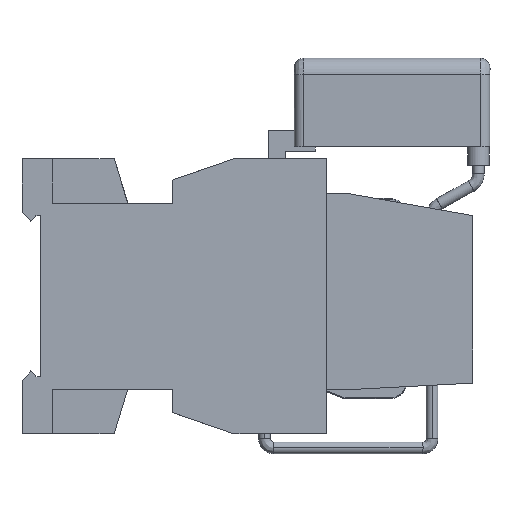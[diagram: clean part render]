
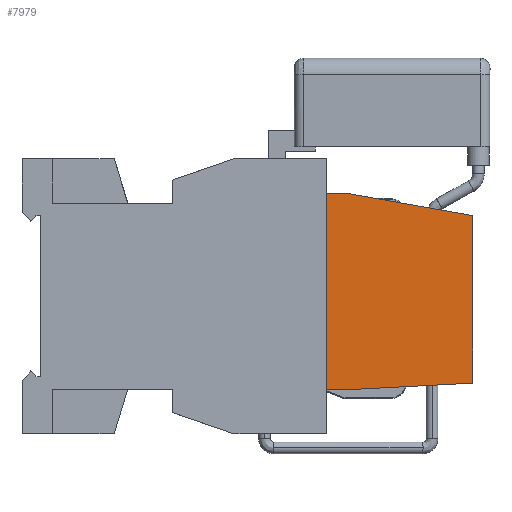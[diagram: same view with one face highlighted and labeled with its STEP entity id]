
A CAD part, left-side view. The second image highlights one B-rep face of the part: STEP entity #7979.
In plain terms, the highlighted planar face has unit normal (-1, 0, 0).
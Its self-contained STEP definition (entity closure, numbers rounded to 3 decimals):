
#62 = FACE_OUTER_BOUND ( 'NONE', #1942, .T. ) ;
#899 = DIRECTION ( 'NONE',  ( 0., 0., -1. ) ) ;
#934 = DIRECTION ( 'NONE',  ( 0., -1., 0. ) ) ;
#959 = DIRECTION ( 'NONE',  ( 1., 0., 0. ) ) ;
#992 = CARTESIAN_POINT ( 'NONE',  ( 24.192, -40.732, 22. ) ) ;
#1680 = CARTESIAN_POINT ( 'NONE',  ( 24.192, -40.732, 0.317 ) ) ;
#1739 = PLANE ( 'NONE',  #10008 ) ;
#1942 = EDGE_LOOP ( 'NONE', ( #9498, #9911, #6932, #10673, #4280, #11079 ) ) ;
#2836 = DIRECTION ( 'NONE',  ( 0., 0.999, -0.052 ) ) ;
#2861 = CARTESIAN_POINT ( 'NONE',  ( 24.192, -57.147, -18.632 ) ) ;
#2958 = CARTESIAN_POINT ( 'NONE',  ( 24.192, -57.147, 0.317 ) ) ;
#3092 = DIRECTION ( 'NONE',  ( 0., 0., -1. ) ) ;
#3416 = DIRECTION ( 'NONE',  ( 0., 1., 0. ) ) ;
#3473 = CARTESIAN_POINT ( 'NONE',  ( 24.192, -40.732, -20. ) ) ;
#3957 = VECTOR ( 'NONE', #13794, 1000. ) ;
#4181 = EDGE_CURVE ( 'NONE', #16043, #14625, #17214, .T. ) ;
#4280 = ORIENTED_EDGE ( 'NONE', *, *, #7407, .F. ) ;
#4377 = LINE ( 'NONE', #15574, #3957 ) ;
#4893 = CARTESIAN_POINT ( 'NONE',  ( 24.192, -57.147, -18.632 ) ) ;
#5354 = VERTEX_POINT ( 'NONE', #9338 ) ;
#5406 = VERTEX_POINT ( 'NONE', #8606 ) ;
#5906 = EDGE_CURVE ( 'NONE', #14625, #5406, #8605, .T. ) ;
#6932 = ORIENTED_EDGE ( 'NONE', *, *, #12618, .F. ) ;
#7105 = VECTOR ( 'NONE', #3092, 1000. ) ;
#7407 = EDGE_CURVE ( 'NONE', #5406, #16825, #15779, .T. ) ;
#7979 = ADVANCED_FACE ( 'NONE', ( #62 ), #1739, .F. ) ;
#8246 = LINE ( 'NONE', #11720, #14744 ) ;
#8605 = LINE ( 'NONE', #2861, #11589 ) ;
#8606 = CARTESIAN_POINT ( 'NONE',  ( 24.192, -31.047, -20. ) ) ;
#9338 = CARTESIAN_POINT ( 'NONE',  ( 24.192, -25.647, 22. ) ) ;
#9466 = EDGE_CURVE ( 'NONE', #15001, #16043, #4377, .T. ) ;
#9498 = ORIENTED_EDGE ( 'NONE', *, *, #4181, .F. ) ;
#9873 = CARTESIAN_POINT ( 'NONE',  ( 24.192, -25.647, -20. ) ) ;
#9911 = ORIENTED_EDGE ( 'NONE', *, *, #9466, .F. ) ;
#10008 = AXIS2_PLACEMENT_3D ( 'NONE', #1680, #959, #899 ) ;
#10673 = ORIENTED_EDGE ( 'NONE', *, *, #15231, .F. ) ;
#10902 = LINE ( 'NONE', #992, #13901 ) ;
#11079 = ORIENTED_EDGE ( 'NONE', *, *, #5906, .F. ) ;
#11589 = VECTOR ( 'NONE', #2836, 1000. ) ;
#11598 = DIRECTION ( 'NONE',  ( 0., 0., 1. ) ) ;
#11720 = CARTESIAN_POINT ( 'NONE',  ( 24.192, -25.647, 0.317 ) ) ;
#11733 = VECTOR ( 'NONE', #3416, 1000. ) ;
#12618 = EDGE_CURVE ( 'NONE', #5354, #15001, #10902, .T. ) ;
#13794 = DIRECTION ( 'NONE',  ( 0., -0.985, -0.174 ) ) ;
#13901 = VECTOR ( 'NONE', #934, 1000. ) ;
#14625 = VERTEX_POINT ( 'NONE', #4893 ) ;
#14721 = CARTESIAN_POINT ( 'NONE',  ( 24.192, -57.147, 17.327 ) ) ;
#14744 = VECTOR ( 'NONE', #11598, 1000. ) ;
#15001 = VERTEX_POINT ( 'NONE', #16659 ) ;
#15231 = EDGE_CURVE ( 'NONE', #16825, #5354, #8246, .T. ) ;
#15574 = CARTESIAN_POINT ( 'NONE',  ( 24.192, -30.647, 22. ) ) ;
#15779 = LINE ( 'NONE', #3473, #11733 ) ;
#16043 = VERTEX_POINT ( 'NONE', #14721 ) ;
#16659 = CARTESIAN_POINT ( 'NONE',  ( 24.192, -30.647, 22. ) ) ;
#16825 = VERTEX_POINT ( 'NONE', #9873 ) ;
#17214 = LINE ( 'NONE', #2958, #7105 ) ;
